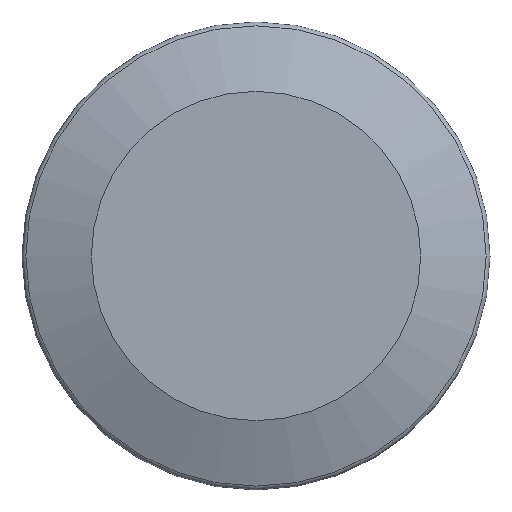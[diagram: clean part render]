
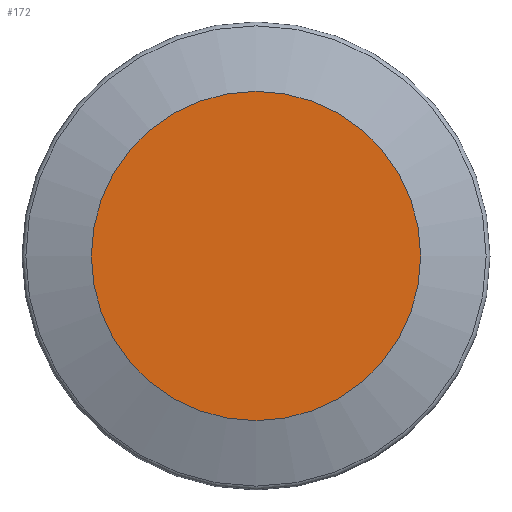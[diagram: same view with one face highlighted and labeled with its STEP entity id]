
A CAD part, left-side view. The second image highlights one B-rep face of the part: STEP entity #172.
In plain terms, the highlighted planar face has unit normal (-1, 0, 0).
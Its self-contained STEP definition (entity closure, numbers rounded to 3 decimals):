
#17=PLANE('',#223);
#40=FACE_OUTER_BOUND('',#52,.T.);
#52=EDGE_LOOP('',(#145));
#64=CIRCLE('',#211,22.521);
#78=VERTEX_POINT('',#310);
#95=EDGE_CURVE('',#78,#78,#64,.T.);
#145=ORIENTED_EDGE('',*,*,#95,.T.);
#172=ADVANCED_FACE('',(#40),#17,.F.);
#211=AXIS2_PLACEMENT_3D('',#312,#257,#258);
#223=AXIS2_PLACEMENT_3D('',#331,#284,#285);
#257=DIRECTION('center_axis',(-1.,0.,0.));
#258=DIRECTION('ref_axis',(0.,-1.,0.));
#284=DIRECTION('center_axis',(1.,0.,0.));
#285=DIRECTION('ref_axis',(0.,1.,0.));
#310=CARTESIAN_POINT('',(-2.297,-22.452,0.));
#312=CARTESIAN_POINT('Origin',(-2.297,0.069,0.));
#331=CARTESIAN_POINT('Origin',(-2.297,22.59,0.));
